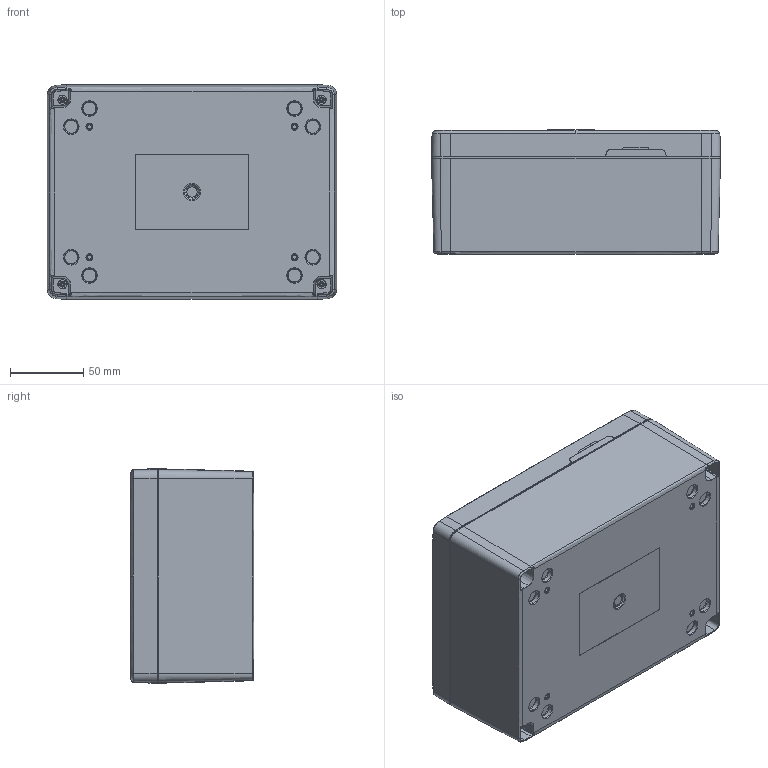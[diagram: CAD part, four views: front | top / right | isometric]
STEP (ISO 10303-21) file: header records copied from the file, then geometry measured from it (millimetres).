
FILE_DESCRIPTION (( 'STEP AP214' ), '1' );
FILE_NAME ('HN-68-11.STEP', '2026-02-24T14:50:31', ( '' ), ( '' ), 'SwSTEP 2.0', 'SolidWorks 2025', '' );
FILE_SCHEMA (( 'AUTOMOTIVE_DESIGN' ));
Length unit declared in the file: inch
Products named in the file (9): INSERTS-3_INSERTS-3; LABEL-107; HN-68-11; HN-68BN_HN-68BPN-01; HN-68B_HN-68BP-01; HN-68G_default; HN-68CG_HN-68CG-01; HN-68C_HN-68C-01; SCREWS-054_DEFAULT
Assembly tree (14 placements, depth 3):
  HN-68-11
    HN-68B_HN-68BP-01
      HN-68BN_HN-68BPN-01
      INSERTS-3_INSERTS-3  x4
      LABEL-107
    HN-68CG_HN-68CG-01
      HN-68C_HN-68C-01
      HN-68G_default
    SCREWS-054_DEFAULT  x4
Bounding box: 196.85 x 84.27 x 146.05 mm (x, y, z)
Volume: 395559.2 mm3; surface area: 255803.2 mm2
Topology: 11 solids, 13 shells, 4422 faces, 10794 edges, 6382 vertices
Faces by surface type: torus 1204, cone 1112, bspline 782, cylinder 639, plane 611, sphere 74
Entity records: 154592 total; most frequent: CARTESIAN_POINT 69139, ORIENTED_EDGE 19066, DIRECTION 16828, EDGE_CURVE 9536, AXIS2_PLACEMENT_3D 7442, VERTEX_POINT 5716, CIRCLE 4205, EDGE_LOOP 3993
